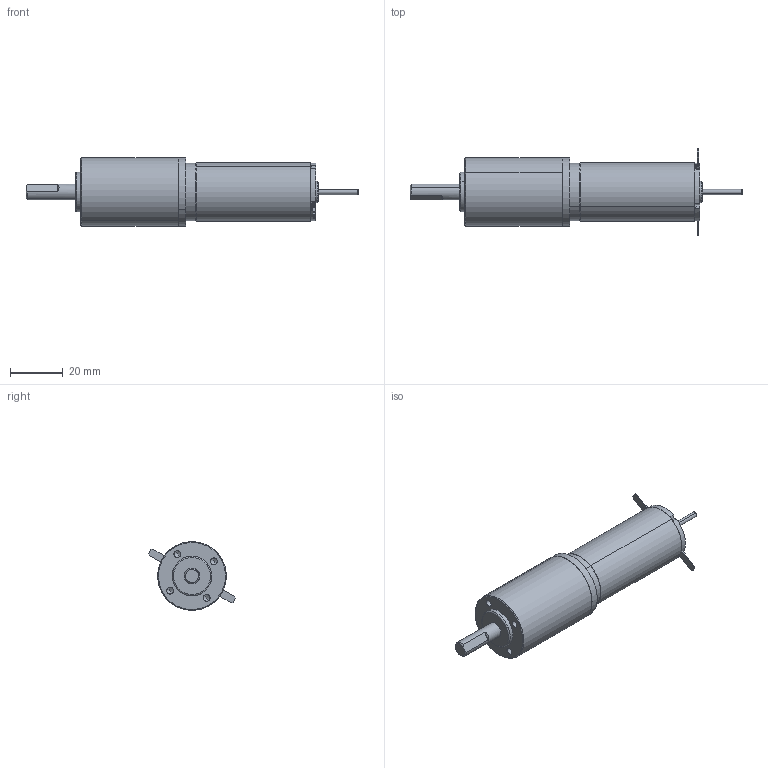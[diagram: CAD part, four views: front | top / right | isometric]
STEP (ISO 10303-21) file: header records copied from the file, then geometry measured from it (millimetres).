
FILE_DESCRIPTION (( 'STEP AP214' ), '1' );
FILE_NAME ('DCX22LG + GP26A-3 étages.STEP', '2014-10-15T08:06:36', ( '' ), ( '' ), 'SwSTEP 2.0', 'SolidWorks 2013', '' );
FILE_SCHEMA (( 'AUTOMOTIVE_DESIGN' ));
Length unit declared in the file: millimetre
Products named in the file (19): 3; 2; 9; 13; 11; 10; 5; 8; 12; 1005018; DCX22LG + GP26A-3 étages; GP26A-3st; DCX22LG; 4; 6; 7; 1228536; 14; 1
Assembly tree (18 placements, depth 3):
  DCX22LG + GP26A-3 étages
    1005018
    DCX22LG
      12
      8
      5
      10
      11
      13
      9
      2
      3
      1
      14
      1228536
      7
      6
      4
    GP26A-3st
Bounding box: 125.65 x 32.86 x 26 mm (x, y, z)
Volume: 28724.2 mm3; surface area: 17592.6 mm2
Topology: 17 solids, 17 shells, 890 faces, 2134 edges, 1326 vertices
Faces by surface type: cylinder 337, plane 267, cone 201, bspline 85
Entity records: 39007 total; most frequent: CARTESIAN_POINT 8292, DIRECTION 4656, ORIENTED_EDGE 4248, EDGE_CURVE 2124, AXIS2_PLACEMENT_3D 1811, VERTEX_POINT 1326, LINE 1034, VECTOR 1034
